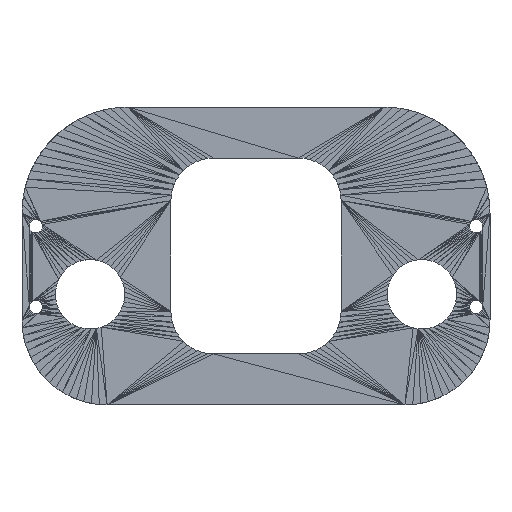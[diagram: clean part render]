
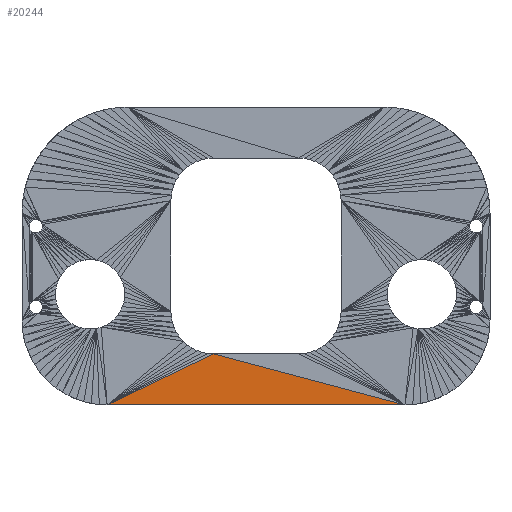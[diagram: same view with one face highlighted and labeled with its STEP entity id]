
A CAD part, front view. The second image highlights one B-rep face of the part: STEP entity #20244.
In plain terms, the highlighted planar face has unit normal (0, -1, 0).
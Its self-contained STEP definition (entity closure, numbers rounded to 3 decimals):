
#16647=CARTESIAN_POINT('Vertex',(20.,0.,0.)) ;
#19414=CARTESIAN_POINT('Line Origine',(55.,0.,0.)) ;
#19418=CARTESIAN_POINT('Vertex',(90.,0.,0.)) ;
#20222=CARTESIAN_POINT('Axis2P3D Location',(45.,0.,12.)) ;
#20227=CARTESIAN_POINT('Line Origine',(32.5,0.,6.)) ;
#20231=CARTESIAN_POINT('Vertex',(45.,0.,12.)) ;
#20234=CARTESIAN_POINT('Line Origine',(67.5,0.,6.)) ;
#19415=DIRECTION('Vector Direction',(-1.,0.,0.)) ;
#20223=DIRECTION('Axis2P3D Direction',(0.,-1.,0.)) ;
#20224=DIRECTION('Axis2P3D XDirection',(0.902,0.,0.433)) ;
#20228=DIRECTION('Vector Direction',(-0.902,0.,-0.433)) ;
#20235=DIRECTION('Vector Direction',(-0.966,0.,0.258)) ;
#20225=AXIS2_PLACEMENT_3D('Plane Axis2P3D',#20222,#20223,#20224) ;
#20240=ORIENTED_EDGE('',*,*,#20233,.F.) ;
#20241=ORIENTED_EDGE('',*,*,#19420,.F.) ;
#20242=ORIENTED_EDGE('',*,*,#20238,.F.) ;
#19416=VECTOR('Line Direction',#19415,1.) ;
#20229=VECTOR('Line Direction',#20228,1.) ;
#20236=VECTOR('Line Direction',#20235,1.) ;
#20244=ADVANCED_FACE('PartBody',(#20243),#20226,.T.) ;
#19420=EDGE_CURVE('',#19419,#16648,#19417,.T.) ;
#20233=EDGE_CURVE('',#16648,#20232,#20230,.F.) ;
#20238=EDGE_CURVE('',#20232,#19419,#20237,.F.) ;
#20239=EDGE_LOOP('',(#20240,#20241,#20242)) ;
#20243=FACE_OUTER_BOUND('',#20239,.T.) ;
#19417=LINE('Line',#19414,#19416) ;
#20230=LINE('Line',#20227,#20229) ;
#20237=LINE('Line',#20234,#20236) ;
#20226=PLANE('Plane',#20225) ;
#16648=VERTEX_POINT('',#16647) ;
#19419=VERTEX_POINT('',#19418) ;
#20232=VERTEX_POINT('',#20231) ;
